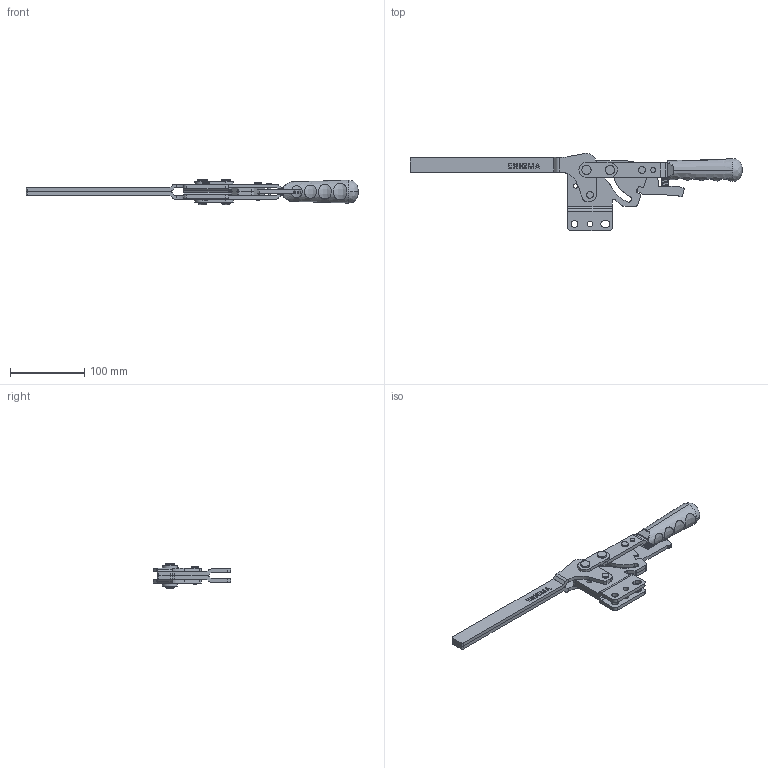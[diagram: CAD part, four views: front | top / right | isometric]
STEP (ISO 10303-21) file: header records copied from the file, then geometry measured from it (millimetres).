
FILE_DESCRIPTION (( 'STEP AP203' ), '1' );
FILE_NAME ('1245_D_L.STEP', '2022-11-26T18:35:14', ( '' ), ( '' ), 'SwSTEP 2.0', 'SolidWorks 2023', '' );
FILE_SCHEMA (( 'CONFIG_CONTROL_DESIGN' ));
Length unit declared in the file: millimetre
Products named in the file (14): Pim_6x24_5_Varsay_X2_0131_X0_lan; cap5x15_CekmeYay_X2_0131_X0_; 2235_UD_Govde; Pim_8x33_Varsay_X2_0131_X0_lan; Aynalama2235_UD_Govde; Aynalama2235_Lama Bask_X2_0131_X0_ Kolu; Burc_9_7x6x8_Varsay_X2_0131_X0_lan; 2235_Lama Bask_X2_0131_X0_ Kolu; 2235_KozaMafsal; 1245_D_L; 1351C_Pim_4x21_Varsay_X2_0131_X0_lan; 2235_K_HareketKolu; 2235_K_Mandal3; C100_Yeni_Tutamak_10x20_Varsay_X2_0131_X0_lan
Assembly tree (18 placements, depth 2):
  1245_D_L
    2235_UD_Govde
    2235_Lama Bask_X2_0131_X0_ Kolu
    2235_KozaMafsal  x2
    2235_K_HareketKolu  x2
    Pim_8x33_Varsay_X2_0131_X0_lan  x2
    Pim_6x24_5_Varsay_X2_0131_X0_lan  x2
    Burc_9_7x6x8_Varsay_X2_0131_X0_lan  x2
    2235_K_Mandal3
    cap5x15_CekmeYay_X2_0131_X0_
    1351C_Pim_4x21_Varsay_X2_0131_X0_lan
    Aynalama2235_Lama Bask_X2_0131_X0_ Kolu
    Aynalama2235_UD_Govde
    C100_Yeni_Tutamak_10x20_Varsay_X2_0131_X0_lan
Bounding box: 446.43 x 103.93 x 34.11 mm (x, y, z)
Volume: 222136.3 mm3; surface area: 113521.2 mm2
Topology: 18 solids, 18 shells, 1168 faces, 3100 edges, 2036 vertices
Faces by surface type: plane 662, cylinder 281, bspline 203, cone 22
Entity records: 40508 total; most frequent: CARTESIAN_POINT 15824, ORIENTED_EDGE 5112, DIRECTION 4254, EDGE_CURVE 2556, VERTEX_POINT 1686, LINE 1620, VECTOR 1620, AXIS2_PLACEMENT_3D 1317
